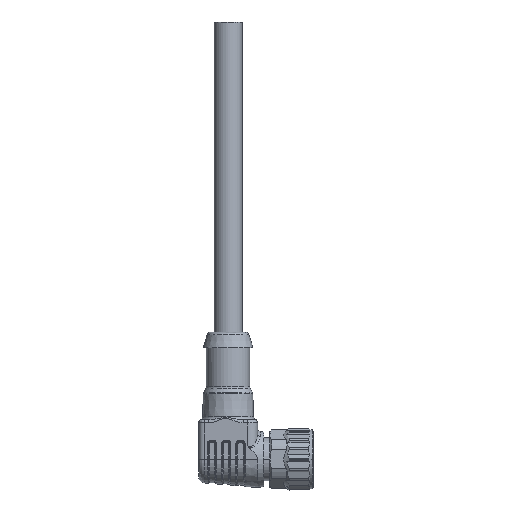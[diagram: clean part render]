
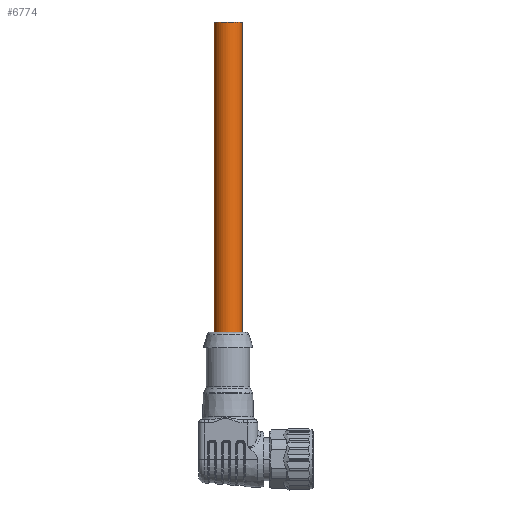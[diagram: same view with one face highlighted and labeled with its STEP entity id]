
A CAD part, top view. The second image highlights one B-rep face of the part: STEP entity #6774.
In plain terms, the highlighted cylindrical face has radius 2.25 mm (diameter 4.5 mm), a partial arc.
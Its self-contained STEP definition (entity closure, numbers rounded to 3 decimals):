
#502 = ORIENTED_EDGE ( 'NONE', *, *, #9341, .T. ) ;
#736 = CARTESIAN_POINT ( 'NONE',  ( -14.05, 70.451, 0. ) ) ;
#1027 = AXIS2_PLACEMENT_3D ( 'NONE', #736, #10408, #15972 ) ;
#1430 = VERTEX_POINT ( 'NONE', #2468 ) ;
#1512 = AXIS2_PLACEMENT_3D ( 'NONE', #5058, #10556, #16185 ) ;
#2468 = CARTESIAN_POINT ( 'NONE',  ( -11.8, 20.451, 0. ) ) ;
#2671 = CARTESIAN_POINT ( 'NONE',  ( -11.8, 20.451, 0. ) ) ;
#2676 = VECTOR ( 'NONE', #12919, 1000. ) ;
#4003 = CIRCLE ( 'NONE', #1512, 2.25 ) ;
#4467 = ORIENTED_EDGE ( 'NONE', *, *, #9769, .F. ) ;
#4482 = VECTOR ( 'NONE', #5393, 1000. ) ;
#5058 = CARTESIAN_POINT ( 'NONE',  ( -14.05, 20.451, 0. ) ) ;
#5127 = CARTESIAN_POINT ( 'NONE',  ( -16.3, 70.451, 0. ) ) ;
#5393 = DIRECTION ( 'NONE',  ( 0., 1., 0. ) ) ;
#5742 = CARTESIAN_POINT ( 'NONE',  ( -16.3, 20.451, 0. ) ) ;
#6247 = VERTEX_POINT ( 'NONE', #5127 ) ;
#6737 = EDGE_CURVE ( 'NONE', #1430, #11049, #11860, .T. ) ;
#6774 = ADVANCED_FACE ( 'NONE', ( #11016 ), #12957, .T. ) ;
#7853 = ORIENTED_EDGE ( 'NONE', *, *, #8625, .T. ) ;
#8217 = EDGE_LOOP ( 'NONE', ( #502, #11510, #7853, #4467 ) ) ;
#8625 = EDGE_CURVE ( 'NONE', #11049, #6247, #12491, .T. ) ;
#9341 = EDGE_CURVE ( 'NONE', #12930, #1430, #4003, .T. ) ;
#9641 = LINE ( 'NONE', #5742, #2676 ) ;
#9769 = EDGE_CURVE ( 'NONE', #12930, #6247, #9641, .T. ) ;
#10408 = DIRECTION ( 'NONE',  ( 0., -1., 0. ) ) ;
#10556 = DIRECTION ( 'NONE',  ( 0., 1., 0. ) ) ;
#10935 = CARTESIAN_POINT ( 'NONE',  ( -14.05, 20.451, 0. ) ) ;
#11016 = FACE_OUTER_BOUND ( 'NONE', #8217, .T. ) ;
#11049 = VERTEX_POINT ( 'NONE', #17595 ) ;
#11510 = ORIENTED_EDGE ( 'NONE', *, *, #6737, .T. ) ;
#11860 = LINE ( 'NONE', #2671, #4482 ) ;
#12444 = AXIS2_PLACEMENT_3D ( 'NONE', #10935, #17973, #17787 ) ;
#12491 = CIRCLE ( 'NONE', #1027, 2.25 ) ;
#12919 = DIRECTION ( 'NONE',  ( 0., 1., 0. ) ) ;
#12930 = VERTEX_POINT ( 'NONE', #14771 ) ;
#12957 = CYLINDRICAL_SURFACE ( 'NONE', #12444, 2.25 ) ;
#14771 = CARTESIAN_POINT ( 'NONE',  ( -16.3, 20.451, 0. ) ) ;
#15972 = DIRECTION ( 'NONE',  ( -1., 0., 0. ) ) ;
#16185 = DIRECTION ( 'NONE',  ( 0., 0., 1. ) ) ;
#17595 = CARTESIAN_POINT ( 'NONE',  ( -11.8, 70.451, 0. ) ) ;
#17787 = DIRECTION ( 'NONE',  ( -1., 0., 0. ) ) ;
#17973 = DIRECTION ( 'NONE',  ( 0., 1., 0. ) ) ;
